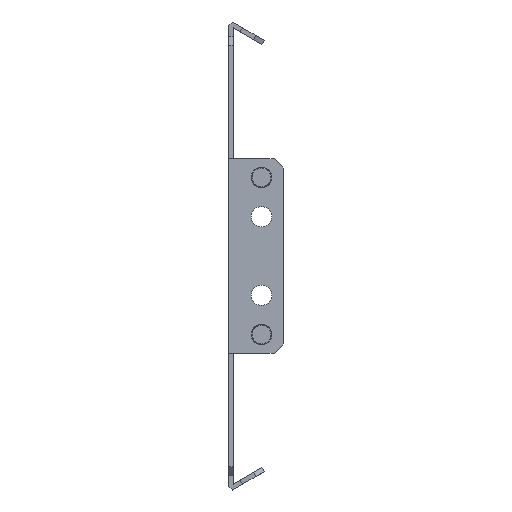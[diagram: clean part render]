
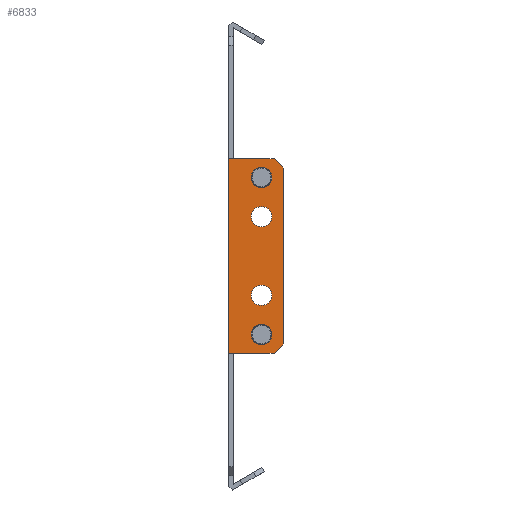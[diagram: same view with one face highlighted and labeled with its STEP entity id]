
A CAD part, front view. The second image highlights one B-rep face of the part: STEP entity #6833.
In plain terms, the highlighted planar face has unit normal (0, -1, 0).
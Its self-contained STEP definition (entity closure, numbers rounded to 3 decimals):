
#10 = AXIS2_PLACEMENT_3D ( 'NONE', #4686, #7116, #3053 ) ;
#102 = AXIS2_PLACEMENT_3D ( 'NONE', #7623, #6230, #2630 ) ;
#356 = DIRECTION ( 'NONE',  ( -1., 0., 0. ) ) ;
#383 = DIRECTION ( 'NONE',  ( -1., 0., 0. ) ) ;
#508 = FACE_BOUND ( 'NONE', #3732, .T. ) ;
#514 = VECTOR ( 'NONE', #1506, 1000. ) ;
#540 = CIRCLE ( 'NONE', #3628, 3.25 ) ;
#541 = EDGE_CURVE ( 'NONE', #7082, #4182, #5715, .T. ) ;
#579 = DIRECTION ( 'NONE',  ( 1., 0., 0. ) ) ;
#631 = CARTESIAN_POINT ( 'NONE',  ( 13.75, -152.75, 12.5 ) ) ;
#642 = CARTESIAN_POINT ( 'NONE',  ( 2.5, -152.75, -31. ) ) ;
#688 = VECTOR ( 'NONE', #6563, 1000. ) ;
#740 = CARTESIAN_POINT ( 'NONE',  ( 7.25, -152.75, 12.5 ) ) ;
#945 = LINE ( 'NONE', #3883, #3861 ) ;
#986 = CARTESIAN_POINT ( 'NONE',  ( 14.5, -152.75, 31. ) ) ;
#1006 = CARTESIAN_POINT ( 'NONE',  ( 17.5, -152.75, -28. ) ) ;
#1176 = CIRCLE ( 'NONE', #5497, 3.25 ) ;
#1200 = EDGE_CURVE ( 'NONE', #1374, #2399, #1975, .T. ) ;
#1229 = CARTESIAN_POINT ( 'NONE',  ( 10.5, -152.75, 25. ) ) ;
#1250 = ORIENTED_EDGE ( 'NONE', *, *, #6660, .T. ) ;
#1374 = VERTEX_POINT ( 'NONE', #3900 ) ;
#1397 = CARTESIAN_POINT ( 'NONE',  ( 7.25, -152.75, -25. ) ) ;
#1398 = LINE ( 'NONE', #7248, #2695 ) ;
#1405 = CARTESIAN_POINT ( 'NONE',  ( 10.5, -152.75, -12.5 ) ) ;
#1489 = CARTESIAN_POINT ( 'NONE',  ( 17.5, -152.75, 28. ) ) ;
#1506 = DIRECTION ( 'NONE',  ( 0.707, 0., 0.707 ) ) ;
#1544 = DIRECTION ( 'NONE',  ( 0., -1., 0. ) ) ;
#1639 = DIRECTION ( 'NONE',  ( 0., 0., -1. ) ) ;
#1690 = EDGE_LOOP ( 'NONE', ( #4148, #4928 ) ) ;
#1766 = DIRECTION ( 'NONE',  ( -1., 0., 0. ) ) ;
#1870 = EDGE_CURVE ( 'NONE', #2399, #3456, #2263, .T. ) ;
#1880 = CARTESIAN_POINT ( 'NONE',  ( 0., -152.75, -31. ) ) ;
#1945 = DIRECTION ( 'NONE',  ( 0., -1., 0. ) ) ;
#1968 = CIRCLE ( 'NONE', #2581, 3.25 ) ;
#1975 = LINE ( 'NONE', #4987, #514 ) ;
#2060 = EDGE_LOOP ( 'NONE', ( #7641, #5139 ) ) ;
#2063 = ORIENTED_EDGE ( 'NONE', *, *, #541, .F. ) ;
#2064 = CARTESIAN_POINT ( 'NONE',  ( 0., -152.75, -31. ) ) ;
#2105 = VERTEX_POINT ( 'NONE', #4693 ) ;
#2174 = LINE ( 'NONE', #6939, #6360 ) ;
#2208 = VERTEX_POINT ( 'NONE', #740 ) ;
#2263 = LINE ( 'NONE', #4628, #2401 ) ;
#2307 = VERTEX_POINT ( 'NONE', #1397 ) ;
#2316 = ORIENTED_EDGE ( 'NONE', *, *, #2967, .F. ) ;
#2325 = FACE_OUTER_BOUND ( 'NONE', #5415, .T. ) ;
#2335 = EDGE_CURVE ( 'NONE', #6386, #6012, #540, .T. ) ;
#2399 = VERTEX_POINT ( 'NONE', #1006 ) ;
#2401 = VECTOR ( 'NONE', #6986, 1000. ) ;
#2531 = EDGE_CURVE ( 'NONE', #3495, #7635, #6687, .T. ) ;
#2545 = EDGE_LOOP ( 'NONE', ( #2769, #4372 ) ) ;
#2581 = AXIS2_PLACEMENT_3D ( 'NONE', #1405, #1945, #6632 ) ;
#2606 = VECTOR ( 'NONE', #7418, 1000. ) ;
#2630 = DIRECTION ( 'NONE',  ( -1., 0., 0. ) ) ;
#2695 = VECTOR ( 'NONE', #3129, 1000. ) ;
#2769 = ORIENTED_EDGE ( 'NONE', *, *, #6920, .F. ) ;
#2865 = ORIENTED_EDGE ( 'NONE', *, *, #1200, .T. ) ;
#2967 = EDGE_CURVE ( 'NONE', #7635, #3495, #6583, .T. ) ;
#3053 = DIRECTION ( 'NONE',  ( -1., 0., 0. ) ) ;
#3078 = CARTESIAN_POINT ( 'NONE',  ( 13.75, -152.75, -25. ) ) ;
#3129 = DIRECTION ( 'NONE',  ( -1., 0., 0. ) ) ;
#3208 = CARTESIAN_POINT ( 'NONE',  ( 13.75, -152.75, 25. ) ) ;
#3210 = ORIENTED_EDGE ( 'NONE', *, *, #3523, .T. ) ;
#3229 = AXIS2_PLACEMENT_3D ( 'NONE', #1229, #3580, #4675 ) ;
#3358 = ORIENTED_EDGE ( 'NONE', *, *, #1870, .T. ) ;
#3456 = VERTEX_POINT ( 'NONE', #1489 ) ;
#3495 = VERTEX_POINT ( 'NONE', #6250 ) ;
#3516 = CARTESIAN_POINT ( 'NONE',  ( 0., -152.75, 0. ) ) ;
#3523 = EDGE_CURVE ( 'NONE', #3456, #6269, #945, .T. ) ;
#3580 = DIRECTION ( 'NONE',  ( 0., -1., 0. ) ) ;
#3628 = AXIS2_PLACEMENT_3D ( 'NONE', #4370, #5729, #383 ) ;
#3732 = EDGE_LOOP ( 'NONE', ( #6624, #2316 ) ) ;
#3861 = VECTOR ( 'NONE', #5712, 1000. ) ;
#3883 = CARTESIAN_POINT ( 'NONE',  ( 14.5, -152.75, 31. ) ) ;
#3895 = AXIS2_PLACEMENT_3D ( 'NONE', #4782, #4670, #1766 ) ;
#3900 = CARTESIAN_POINT ( 'NONE',  ( 14.5, -152.75, -31. ) ) ;
#4041 = EDGE_CURVE ( 'NONE', #2208, #7416, #5160, .T. ) ;
#4148 = ORIENTED_EDGE ( 'NONE', *, *, #7544, .F. ) ;
#4163 = EDGE_CURVE ( 'NONE', #2105, #6526, #1398, .T. ) ;
#4167 = AXIS2_PLACEMENT_3D ( 'NONE', #7051, #7601, #7087 ) ;
#4182 = VERTEX_POINT ( 'NONE', #7208 ) ;
#4265 = CARTESIAN_POINT ( 'NONE',  ( 0., -152.75, 31. ) ) ;
#4370 = CARTESIAN_POINT ( 'NONE',  ( 10.5, -152.75, -12.5 ) ) ;
#4372 = ORIENTED_EDGE ( 'NONE', *, *, #5895, .F. ) ;
#4628 = CARTESIAN_POINT ( 'NONE',  ( 17.5, -152.75, 0. ) ) ;
#4670 = DIRECTION ( 'NONE',  ( 0., -1., 0. ) ) ;
#4675 = DIRECTION ( 'NONE',  ( -1., 0., 0. ) ) ;
#4686 = CARTESIAN_POINT ( 'NONE',  ( 10.5, -152.75, 25. ) ) ;
#4693 = CARTESIAN_POINT ( 'NONE',  ( 2.5, -152.75, 31. ) ) ;
#4782 = CARTESIAN_POINT ( 'NONE',  ( 10.5, -152.75, -25. ) ) ;
#4928 = ORIENTED_EDGE ( 'NONE', *, *, #2335, .F. ) ;
#4987 = CARTESIAN_POINT ( 'NONE',  ( 17.5, -152.75, -28. ) ) ;
#5059 = VERTEX_POINT ( 'NONE', #3078 ) ;
#5139 = ORIENTED_EDGE ( 'NONE', *, *, #5373, .F. ) ;
#5160 = CIRCLE ( 'NONE', #4167, 3.25 ) ;
#5170 = CIRCLE ( 'NONE', #102, 3.25 ) ;
#5185 = EDGE_CURVE ( 'NONE', #6526, #4182, #2174, .T. ) ;
#5272 = FACE_BOUND ( 'NONE', #2545, .T. ) ;
#5373 = EDGE_CURVE ( 'NONE', #7416, #2208, #1176, .T. ) ;
#5415 = EDGE_LOOP ( 'NONE', ( #3358, #3210, #1250, #5495, #7378, #2063, #6273, #2865 ) ) ;
#5495 = ORIENTED_EDGE ( 'NONE', *, *, #4163, .T. ) ;
#5497 = AXIS2_PLACEMENT_3D ( 'NONE', #5765, #1544, #7505 ) ;
#5712 = DIRECTION ( 'NONE',  ( -0.707, 0., 0.707 ) ) ;
#5715 = LINE ( 'NONE', #2064, #2606 ) ;
#5729 = DIRECTION ( 'NONE',  ( 0., -1., 0. ) ) ;
#5765 = CARTESIAN_POINT ( 'NONE',  ( 10.5, -152.75, 12.5 ) ) ;
#5782 = VECTOR ( 'NONE', #356, 1000. ) ;
#5791 = AXIS2_PLACEMENT_3D ( 'NONE', #3516, #5888, #579 ) ;
#5888 = DIRECTION ( 'NONE',  ( 0., 1., 0. ) ) ;
#5895 = EDGE_CURVE ( 'NONE', #5059, #2307, #7112, .T. ) ;
#5948 = EDGE_CURVE ( 'NONE', #7082, #1374, #7181, .T. ) ;
#6012 = VERTEX_POINT ( 'NONE', #7660 ) ;
#6230 = DIRECTION ( 'NONE',  ( 0., -1., 0. ) ) ;
#6250 = CARTESIAN_POINT ( 'NONE',  ( 7.25, -152.75, 25. ) ) ;
#6269 = VERTEX_POINT ( 'NONE', #986 ) ;
#6273 = ORIENTED_EDGE ( 'NONE', *, *, #5948, .T. ) ;
#6360 = VECTOR ( 'NONE', #1639, 1000. ) ;
#6386 = VERTEX_POINT ( 'NONE', #6439 ) ;
#6439 = CARTESIAN_POINT ( 'NONE',  ( 13.75, -152.75, -12.5 ) ) ;
#6468 = PLANE ( 'NONE',  #5791 ) ;
#6526 = VERTEX_POINT ( 'NONE', #4265 ) ;
#6563 = DIRECTION ( 'NONE',  ( 1., 0., 0. ) ) ;
#6583 = CIRCLE ( 'NONE', #3229, 3.25 ) ;
#6624 = ORIENTED_EDGE ( 'NONE', *, *, #2531, .F. ) ;
#6632 = DIRECTION ( 'NONE',  ( -1., 0., 0. ) ) ;
#6660 = EDGE_CURVE ( 'NONE', #6269, #2105, #7364, .T. ) ;
#6687 = CIRCLE ( 'NONE', #10, 3.25 ) ;
#6776 = CARTESIAN_POINT ( 'NONE',  ( 0., -152.75, 31. ) ) ;
#6833 = ADVANCED_FACE ( 'NONE', ( #508, #7598, #5272, #7638, #2325 ), #6468, .F. ) ;
#6920 = EDGE_CURVE ( 'NONE', #2307, #5059, #5170, .T. ) ;
#6939 = CARTESIAN_POINT ( 'NONE',  ( 0., -152.75, 0. ) ) ;
#6986 = DIRECTION ( 'NONE',  ( 0., 0., 1. ) ) ;
#7051 = CARTESIAN_POINT ( 'NONE',  ( 10.5, -152.75, 12.5 ) ) ;
#7082 = VERTEX_POINT ( 'NONE', #642 ) ;
#7087 = DIRECTION ( 'NONE',  ( -1., 0., 0. ) ) ;
#7112 = CIRCLE ( 'NONE', #3895, 3.25 ) ;
#7116 = DIRECTION ( 'NONE',  ( 0., -1., 0. ) ) ;
#7181 = LINE ( 'NONE', #1880, #688 ) ;
#7208 = CARTESIAN_POINT ( 'NONE',  ( 0., -152.75, -31. ) ) ;
#7248 = CARTESIAN_POINT ( 'NONE',  ( 2.5, -152.75, 31. ) ) ;
#7364 = LINE ( 'NONE', #6776, #5782 ) ;
#7378 = ORIENTED_EDGE ( 'NONE', *, *, #5185, .T. ) ;
#7416 = VERTEX_POINT ( 'NONE', #631 ) ;
#7418 = DIRECTION ( 'NONE',  ( -1., 0., 0. ) ) ;
#7505 = DIRECTION ( 'NONE',  ( -1., 0., 0. ) ) ;
#7544 = EDGE_CURVE ( 'NONE', #6012, #6386, #1968, .T. ) ;
#7598 = FACE_BOUND ( 'NONE', #2060, .T. ) ;
#7601 = DIRECTION ( 'NONE',  ( 0., -1., 0. ) ) ;
#7623 = CARTESIAN_POINT ( 'NONE',  ( 10.5, -152.75, -25. ) ) ;
#7635 = VERTEX_POINT ( 'NONE', #3208 ) ;
#7638 = FACE_BOUND ( 'NONE', #1690, .T. ) ;
#7641 = ORIENTED_EDGE ( 'NONE', *, *, #4041, .F. ) ;
#7660 = CARTESIAN_POINT ( 'NONE',  ( 7.25, -152.75, -12.5 ) ) ;
